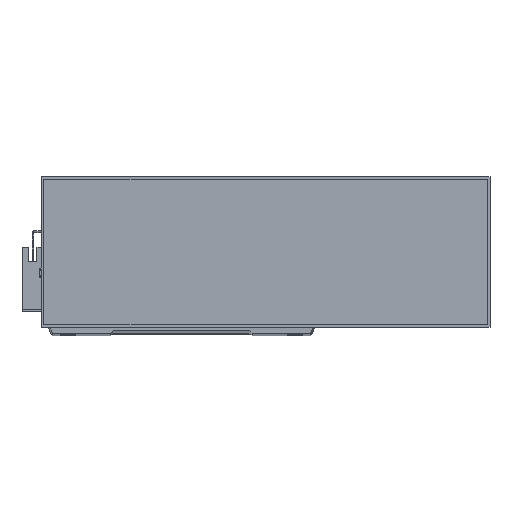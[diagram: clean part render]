
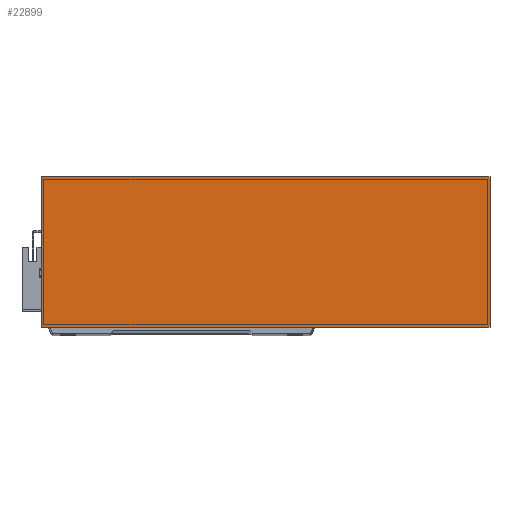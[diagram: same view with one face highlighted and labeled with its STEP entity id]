
A CAD part, top view. The second image highlights one B-rep face of the part: STEP entity #22899.
In plain terms, the highlighted planar face has unit normal (0, 0, 1).
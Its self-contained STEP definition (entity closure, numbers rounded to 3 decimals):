
#105 = LINE ( 'NONE', #7172, #23377 ) ;
#372 = DIRECTION ( 'NONE',  ( 1., 0., 0. ) ) ;
#1727 = AXIS2_PLACEMENT_3D ( 'NONE', #5655, #12464, #28100 ) ;
#2332 = ORIENTED_EDGE ( 'NONE', *, *, #26629, .T. ) ;
#2799 = VERTEX_POINT ( 'NONE', #24422 ) ;
#5297 = VECTOR ( 'NONE', #22068, 1000. ) ;
#5479 = DIRECTION ( 'NONE',  ( -1., 0., 0. ) ) ;
#5655 = CARTESIAN_POINT ( 'NONE',  ( 0., 0., 50. ) ) ;
#6128 = FACE_OUTER_BOUND ( 'NONE', #21786, .T. ) ;
#6384 = CARTESIAN_POINT ( 'NONE',  ( 0., 0., 50. ) ) ;
#7148 = CARTESIAN_POINT ( 'NONE',  ( 0., 0., 50. ) ) ;
#7172 = CARTESIAN_POINT ( 'NONE',  ( 0., 0., 50. ) ) ;
#8492 = VERTEX_POINT ( 'NONE', #18574 ) ;
#8508 = LINE ( 'NONE', #12414, #14465 ) ;
#9265 = EDGE_CURVE ( 'NONE', #26375, #8492, #8508, .T. ) ;
#9398 = ORIENTED_EDGE ( 'NONE', *, *, #9265, .T. ) ;
#11129 = CARTESIAN_POINT ( 'NONE',  ( 277., 0., 50. ) ) ;
#11532 = EDGE_CURVE ( 'NONE', #16569, #26375, #105, .T. ) ;
#12414 = CARTESIAN_POINT ( 'NONE',  ( 277., 0., 50. ) ) ;
#12464 = DIRECTION ( 'NONE',  ( 0., 0., -1. ) ) ;
#14336 = EDGE_CURVE ( 'NONE', #2799, #16569, #17266, .T. ) ;
#14445 = CARTESIAN_POINT ( 'NONE',  ( 0., 93., 50. ) ) ;
#14465 = VECTOR ( 'NONE', #25784, 1000. ) ;
#16569 = VERTEX_POINT ( 'NONE', #7148 ) ;
#17266 = LINE ( 'NONE', #6384, #5297 ) ;
#18574 = CARTESIAN_POINT ( 'NONE',  ( 277., 93., 50. ) ) ;
#20664 = ORIENTED_EDGE ( 'NONE', *, *, #11532, .T. ) ;
#21786 = EDGE_LOOP ( 'NONE', ( #22510, #20664, #9398, #2332 ) ) ;
#22068 = DIRECTION ( 'NONE',  ( 0., -1., 0. ) ) ;
#22510 = ORIENTED_EDGE ( 'NONE', *, *, #14336, .T. ) ;
#22807 = VECTOR ( 'NONE', #5479, 1000. ) ;
#22899 = ADVANCED_FACE ( 'NONE', ( #6128 ), #25836, .F. ) ;
#23377 = VECTOR ( 'NONE', #372, 1000. ) ;
#24422 = CARTESIAN_POINT ( 'NONE',  ( 0., 93., 50. ) ) ;
#25784 = DIRECTION ( 'NONE',  ( 0., 1., 0. ) ) ;
#25836 = PLANE ( 'NONE',  #1727 ) ;
#26375 = VERTEX_POINT ( 'NONE', #11129 ) ;
#26629 = EDGE_CURVE ( 'NONE', #8492, #2799, #28785, .T. ) ;
#28100 = DIRECTION ( 'NONE',  ( -1., 0., 0. ) ) ;
#28785 = LINE ( 'NONE', #14445, #22807 ) ;
